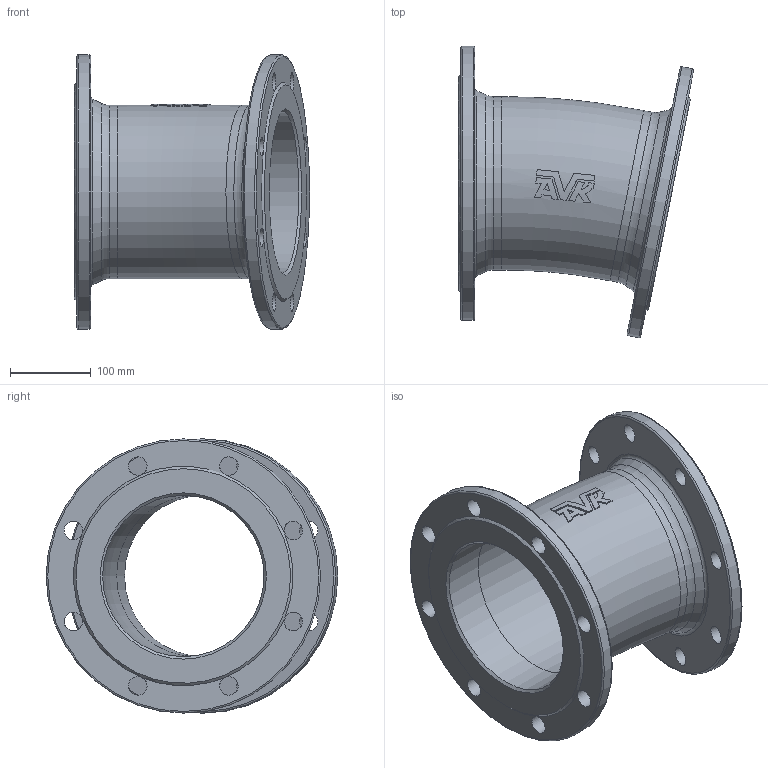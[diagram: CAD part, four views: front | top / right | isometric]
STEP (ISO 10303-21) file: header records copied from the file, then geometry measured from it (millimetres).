
FILE_DESCRIPTION (( 'STEP AP203' ), '1' );
FILE_NAME ('O_712_0110_DN200_0X_REV01.step', '2024-08-15T08:40:48', ( '' ), ( '' ), 'SwSTEP 2.0', 'SolidWorks 2022', '' );
FILE_SCHEMA (( 'CONFIG_CONTROL_DESIGN' ));
Length unit declared in the file: millimetre
Products named in the file (1): O_712_0110_DN200_0X_REV01
Bounding box: 291.33 x 361.54 x 340 mm (x, y, z)
Volume: 3257053.1 mm3; surface area: 574379.8 mm2
Topology: 1 solids, 1 shells, 85 faces, 248 edges, 157 vertices
Faces by surface type: plane 41, cylinder 24, torus 14, cone 6
Full cylindrical faces by diameter (mm): 23 x16, 200 x2, 215 x2, 340 x2
Entity records: 2680 total; most frequent: CARTESIAN_POINT 705, ORIENTED_EDGE 370, DIRECTION 357, EDGE_CURVE 185, AXIS2_PLACEMENT_3D 160, EDGE_LOOP 149, VERTEX_POINT 132, FACE_OUTER_BOUND 117
